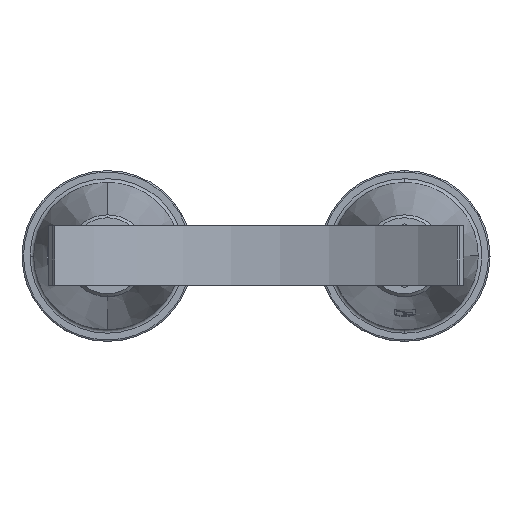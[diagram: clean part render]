
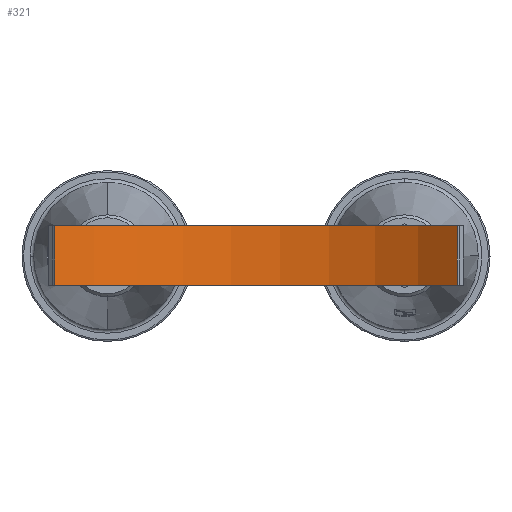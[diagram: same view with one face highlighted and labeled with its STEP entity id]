
A CAD part, top view. The second image highlights one B-rep face of the part: STEP entity #321.
In plain terms, the highlighted cylindrical face has radius 403 mm (diameter 806 mm), a partial arc.
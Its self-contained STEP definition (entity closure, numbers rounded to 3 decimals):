
#321=ADVANCED_FACE('',(#787),#788,.F.);
#787=FACE_OUTER_BOUND('',#1476,.T.);
#788=CYLINDRICAL_SURFACE('',#1477,403.);
#1476=EDGE_LOOP('',(#2120,#2121,#2122,#2123));
#1477=AXIS2_PLACEMENT_3D('',#2124,#2125,#2126);
#2120=ORIENTED_EDGE('',*,*,#3875,.T.);
#2121=ORIENTED_EDGE('',*,*,#3865,.F.);
#2122=ORIENTED_EDGE('',*,*,#3876,.T.);
#2123=ORIENTED_EDGE('',*,*,#3872,.T.);
#2124=CARTESIAN_POINT('',(394.401,536.585,515.09));
#2125=DIRECTION('',(0.,-1.0,0.));
#2126=DIRECTION('',(1.0,0.,0.));
#3865=EDGE_CURVE('',#4555,#4550,#4557,.T.);
#3872=EDGE_CURVE('',#4567,#4565,#4568,.T.);
#3875=EDGE_CURVE('',#4565,#4550,#4571,.T.);
#3876=EDGE_CURVE('',#4555,#4567,#4572,.T.);
#4550=VERTEX_POINT('',#5548);
#4555=VERTEX_POINT('',#5555);
#4557=LINE('',#5558,#5559);
#4565=VERTEX_POINT('',#5568);
#4567=VERTEX_POINT('',#5571);
#4568=LINE('',#5572,#5573);
#4571=CIRCLE('',#5577,403.);
#4572=CIRCLE('',#5578,403.);
#5548=CARTESIAN_POINT('',(665.144,456.585,216.582));
#5555=CARTESIAN_POINT('',(665.144,536.585,216.582));
#5558=CARTESIAN_POINT('',(665.144,536.585,216.582));
#5559=VECTOR('',#8202,1.);
#5568=CARTESIAN_POINT('',(123.432,456.585,216.787));
#5571=CARTESIAN_POINT('',(123.432,536.585,216.787));
#5572=CARTESIAN_POINT('',(123.432,536.585,216.787));
#5573=VECTOR('',#8211,1.);
#5577=AXIS2_PLACEMENT_3D('',#8213,#8214,#8215);
#5578=AXIS2_PLACEMENT_3D('',#8216,#8217,#8218);
#8202=DIRECTION('',(0.,-1.0,0.));
#8211=DIRECTION('',(0.,-1.0,0.));
#8213=CARTESIAN_POINT('',(394.401,456.585,515.09));
#8214=DIRECTION('',(0.,-1.0,0.));
#8215=DIRECTION('',(1.0,0.,0.));
#8216=CARTESIAN_POINT('',(394.401,536.585,515.09));
#8217=DIRECTION('',(0.,1.0,0.));
#8218=DIRECTION('',(1.0,0.,0.));
